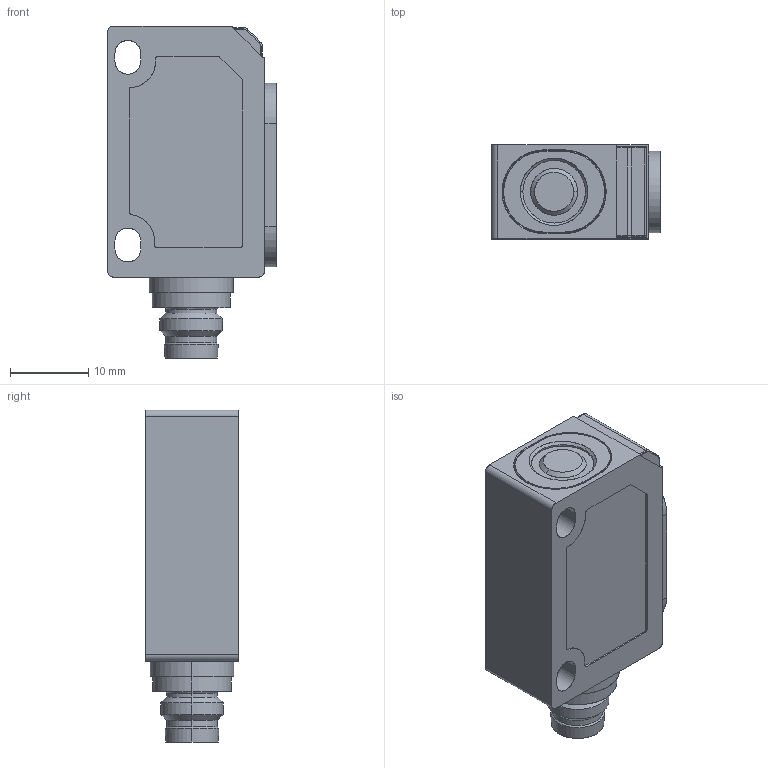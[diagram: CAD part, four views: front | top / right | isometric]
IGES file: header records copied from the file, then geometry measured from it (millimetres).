
Start section: SolidWorks IGES file using analytic representation for surfaces
Global section: file name: Z:\Projekte\Kunststoff-Blechteile\Zeichnungen\Bibliothek Inventor\3D Solids\zws\IGS\zws-15_CX_QS.igs; native system: SolidWorks 2024; preprocessor: SolidWorks 2024; author: Oliver Liedtke; date: 250425.121816; units: millimetre
Bounding box: 21.6 x 12 x 42.45 mm (x, y, z)
Surface area: 3333.1 mm2 (no closed solid volume)
Topology: 0 solids, 0 shells, 136 faces, 1508 edges, 1500 vertices
Faces by surface type: revolution 87, bspline 49
